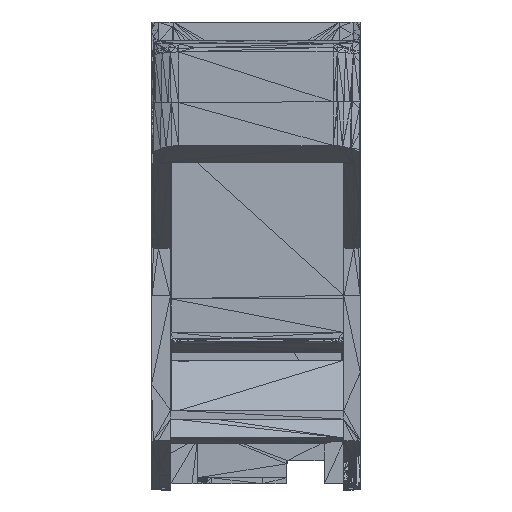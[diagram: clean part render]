
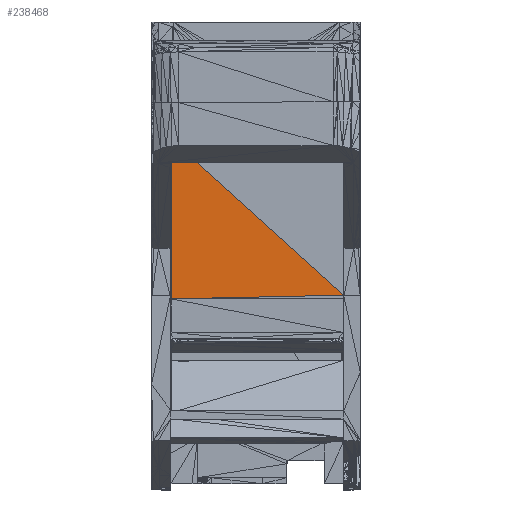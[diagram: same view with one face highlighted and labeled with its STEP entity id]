
A CAD part, top view. The second image highlights one B-rep face of the part: STEP entity #238468.
In plain terms, the highlighted planar face has unit normal (0, 0, 1) by its records, which use the part's own axes.
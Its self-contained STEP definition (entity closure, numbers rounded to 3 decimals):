
#130978 = EDGE_CURVE('',#130979,#130981,#130983,.T.);
#130979 = VERTEX_POINT('',#130980);
#130980 = CARTESIAN_POINT('',(-15.066,3.293,
    33.999));
#130981 = VERTEX_POINT('',#130982);
#130982 = CARTESIAN_POINT('',(-15.066,31.171,
    33.999));
#130983 = LINE('',#130984,#130985);
#130984 = CARTESIAN_POINT('',(-15.066,3.293,
    33.999));
#130985 = VECTOR('',#130986,1.);
#130986 = DIRECTION('',(0.,1.,0.));
#234821 = VERTEX_POINT('',#234822);
#234822 = CARTESIAN_POINT('',(14.995,3.942,
    33.999));
#238426 = EDGE_CURVE('',#234821,#130979,#238427,.T.);
#238427 = LINE('',#238428,#238429);
#238428 = CARTESIAN_POINT('',(14.995,3.942,
    33.999));
#238429 = VECTOR('',#238430,1.);
#238430 = DIRECTION('',(-1.,-0.022,0.));
#238458 = EDGE_CURVE('',#130981,#234821,#238459,.T.);
#238459 = LINE('',#238460,#238461);
#238460 = CARTESIAN_POINT('',(-15.066,31.171,
    33.999));
#238461 = VECTOR('',#238462,1.);
#238462 = DIRECTION('',(0.741,-0.671,0.));
#238468 = ADVANCED_FACE('',(#238469),#238474,.T.);
#238469 = FACE_BOUND('',#238470,.T.);
#238470 = EDGE_LOOP('',(#238471,#238472,#238473));
#238471 = ORIENTED_EDGE('',*,*,#130978,.F.);
#238472 = ORIENTED_EDGE('',*,*,#238426,.F.);
#238473 = ORIENTED_EDGE('',*,*,#238458,.F.);
#238474 = PLANE('',#238475);
#238475 = AXIS2_PLACEMENT_3D('',#238476,#238477,#238478);
#238476 = CARTESIAN_POINT('',(-4.289,13.21,
    33.999));
#238477 = DIRECTION('',(0.,0.,1.));
#238478 = DIRECTION('',(1.,0.,0.));
